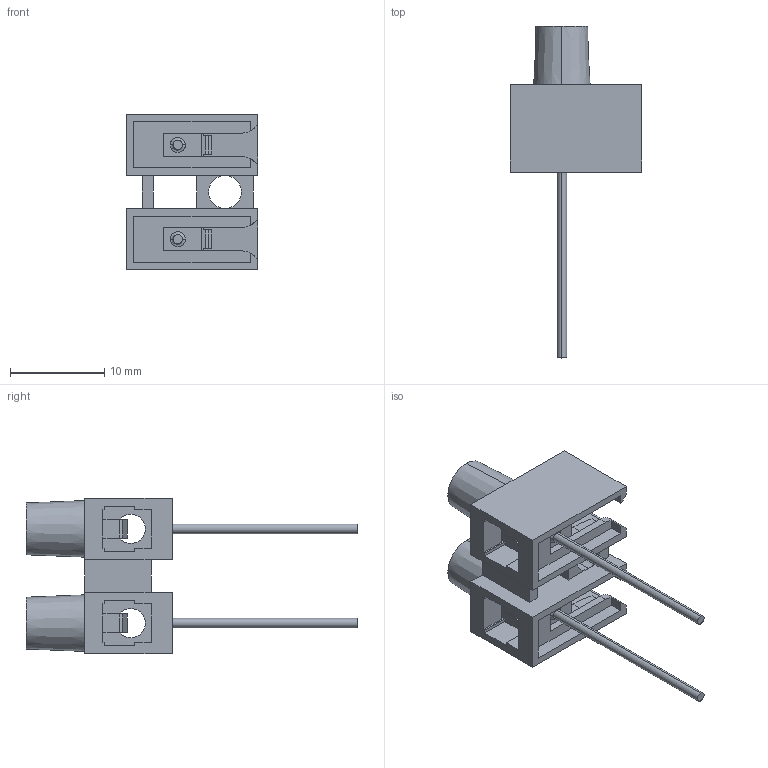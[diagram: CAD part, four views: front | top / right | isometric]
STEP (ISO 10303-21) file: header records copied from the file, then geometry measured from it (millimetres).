
FILE_DESCRIPTION (( 'STEP AP214' ), '1' );
FILE_NAME ('322GDS.STEP', '2025-07-07T15:57:06', ( '' ), ( '' ), 'SwSTEP 2.0', 'SolidWorks 2023', '' );
FILE_SCHEMA (( 'AUTOMOTIVE_DESIGN' ));
Length unit declared in the file: millimetre
Products named in the file (1): 322GDS
Bounding box: 14 x 35.2 x 16.5 mm (x, y, z)
Volume: 1319.6 mm3; surface area: 2326.4 mm2
Topology: 1 solids, 1 shells, 242 faces, 678 edges, 442 vertices
Faces by surface type: plane 152, cylinder 64, bspline 14, cone 12
Entity records: 8589 total; most frequent: CARTESIAN_POINT 2263, ORIENTED_EDGE 1356, DIRECTION 1280, EDGE_CURVE 678, VECTOR 454, LINE 454, VERTEX_POINT 442, AXIS2_PLACEMENT_3D 413
